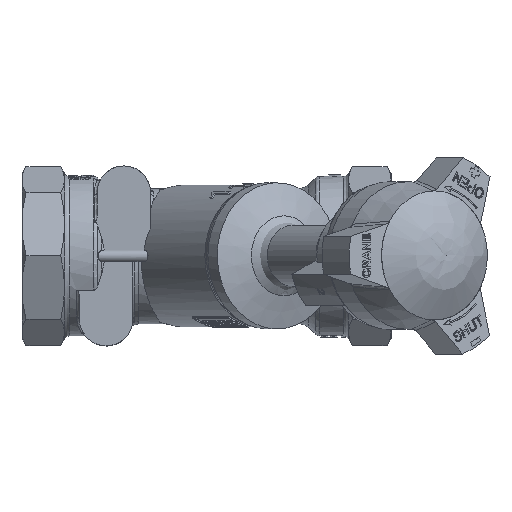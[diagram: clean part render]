
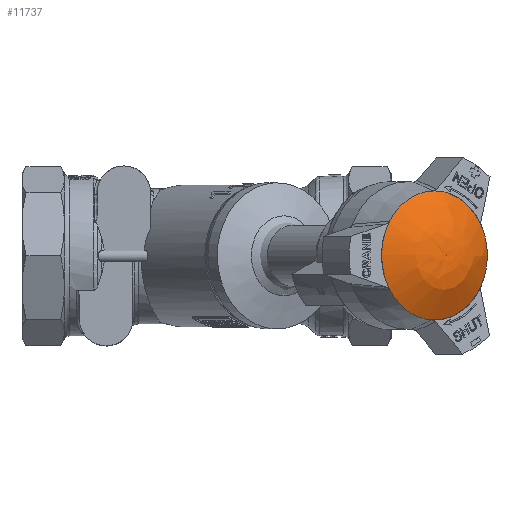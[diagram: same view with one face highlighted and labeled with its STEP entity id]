
A CAD part, top view. The second image highlights one B-rep face of the part: STEP entity #11737.
In plain terms, the highlighted free-form (B-spline) face has degree [2, 2] with [5, 9] control points.
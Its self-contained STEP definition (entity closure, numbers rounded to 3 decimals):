
#11648=CARTESIAN_POINT('',(14.802,21.882,123.101));
#11649=VERTEX_POINT('',#11648);
#11650=CARTESIAN_POINT('',(14.731,0.,123.151));
#11651=DIRECTION('',(0.574,0.,0.819));
#11652=DIRECTION('',(0.003,1.,-0.002));
#11653=AXIS2_PLACEMENT_3D('',#11650,#11651,#11652);
#11654=CIRCLE('',#11653,21.883);
#11655=EDGE_CURVE('',#11649,#11649,#11654,.T.);
#11681=CARTESIAN_POINT('',(29.612,-0.129,87.628));
#11682=CARTESIAN_POINT('',(35.888,-0.125,98.416));
#11683=CARTESIAN_POINT('',(32.688,-0.087,110.48));
#11684=CARTESIAN_POINT('',(29.487,-0.049,122.544));
#11685=CARTESIAN_POINT('',(18.689,0.,128.803));
#11686=CARTESIAN_POINT('',(29.506,-32.695,87.702));
#11687=CARTESIAN_POINT('',(35.786,-31.643,98.488));
#11688=CARTESIAN_POINT('',(32.616,-22.064,110.53));
#11689=CARTESIAN_POINT('',(29.447,-12.485,122.572));
#11690=CARTESIAN_POINT('',(18.689,0.,128.803));
#11691=CARTESIAN_POINT('',(2.831,-32.565,106.381));
#11692=CARTESIAN_POINT('',(9.968,-31.518,116.566));
#11693=CARTESIAN_POINT('',(14.614,-21.977,123.136));
#11694=CARTESIAN_POINT('',(19.26,-12.435,129.705));
#11695=CARTESIAN_POINT('',(18.689,0.,128.803));
#11696=CARTESIAN_POINT('',(-23.845,-32.436,125.059));
#11697=CARTESIAN_POINT('',(-15.85,-31.393,134.644));
#11698=CARTESIAN_POINT('',(-3.388,-21.889,135.741));
#11699=CARTESIAN_POINT('',(9.074,-12.386,136.838));
#11700=CARTESIAN_POINT('',(18.689,0.,128.803));
#11701=CARTESIAN_POINT('',(-23.739,0.129,124.985));
#11702=CARTESIAN_POINT('',(-15.748,0.125,134.572));
#11703=CARTESIAN_POINT('',(-3.317,0.087,135.691));
#11704=CARTESIAN_POINT('',(9.114,0.049,136.81));
#11705=CARTESIAN_POINT('',(18.689,0.,128.803));
#11706=CARTESIAN_POINT('',(-23.633,32.695,124.911));
#11707=CARTESIAN_POINT('',(-15.645,31.643,134.501));
#11708=CARTESIAN_POINT('',(-3.245,22.064,135.641));
#11709=CARTESIAN_POINT('',(9.155,12.485,136.781));
#11710=CARTESIAN_POINT('',(18.689,0.,128.803));
#11711=CARTESIAN_POINT('',(3.042,32.565,106.232));
#11712=CARTESIAN_POINT('',(10.173,31.518,116.423));
#11713=CARTESIAN_POINT('',(14.757,21.977,123.036));
#11714=CARTESIAN_POINT('',(19.341,12.435,129.648));
#11715=CARTESIAN_POINT('',(18.689,0.,128.803));
#11716=CARTESIAN_POINT('',(29.718,32.436,87.554));
#11717=CARTESIAN_POINT('',(35.991,31.393,98.345));
#11718=CARTESIAN_POINT('',(32.759,21.889,110.43));
#11719=CARTESIAN_POINT('',(29.528,12.386,122.516));
#11720=CARTESIAN_POINT('',(18.689,0.,128.803));
#11721=CARTESIAN_POINT('',(29.612,-0.129,87.628));
#11722=CARTESIAN_POINT('',(35.888,-0.125,98.416));
#11723=CARTESIAN_POINT('',(32.688,-0.087,110.48));
#11724=CARTESIAN_POINT('',(29.487,-0.049,122.544));
#11725=CARTESIAN_POINT('',(18.689,0.,128.803));
#11733=(BOUNDED_SURFACE()B_SPLINE_SURFACE(2,2,((#11681,#11686,#11691,#11696,#11701,#11706,#11711,#11716,#11721),(#11682,#11687,#11692,#11697,#11702,#11707,#11712,#11717,#11722),(#11683,#11688,#11693,#11698,#11703,#11708,#11713,#11718,#11723),(#11684,#11689,#11694,#11699,#11704,#11709,#11714,#11719,#11724),(#11685,#11690,#11695,#11700,#11705,#11710,#11715,#11720,#11725)),.UNSPECIFIED.,.F.,.T.,.U.)B_SPLINE_SURFACE_WITH_KNOTS((3,2,3),(3,2,2,2,3),(0.084,0.87,1.656),(0.0,1.571,3.142,4.712,6.283),.UNSPECIFIED.)GEOMETRIC_REPRESENTATION_ITEM()RATIONAL_B_SPLINE_SURFACE(((1.0,0.707,1.0,0.707,1.0,0.707,1.0,0.707,1.0),(0.924,0.653,0.924,0.653,0.924,0.653,0.924,0.653,0.924),(1.0,0.707,1.0,0.707,1.0,0.707,1.0,0.707,1.0),(0.924,0.653,0.924,0.653,0.924,0.653,0.924,0.653,0.924),(1.0,0.707,1.0,0.707,1.0,0.707,1.0,0.707,1.0)))REPRESENTATION_ITEM('')SURFACE());
#11734=ORIENTED_EDGE('',*,*,#11655,.T.);
#11735=EDGE_LOOP('',(#11734));
#11736=FACE_OUTER_BOUND('',#11735,.T.);
#11737=ADVANCED_FACE('',(#11736),#11733,.T.);
